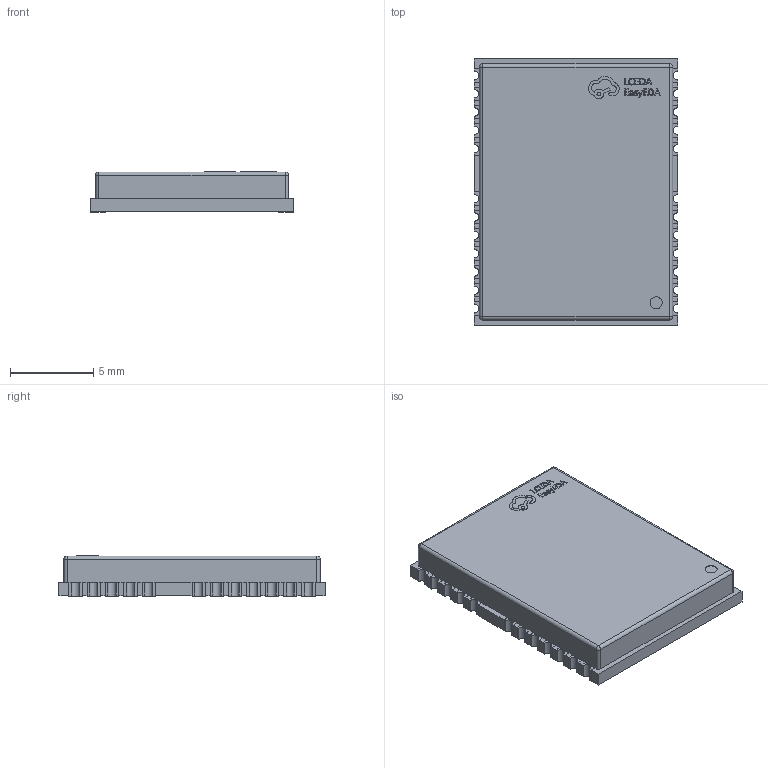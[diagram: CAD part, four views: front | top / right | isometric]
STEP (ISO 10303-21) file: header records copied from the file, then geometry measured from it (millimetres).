
FILE_DESCRIPTION (( 'STEP AP214' ), '1' );
FILE_NAME ('GPSM-SMD_24P-L16.0-W12.2-P1.10-BL.step', '2022-06-24T03:46:23', ( '' ), ( '' ), 'SwSTEP 2.0', 'SolidWorks 2020', '' );
FILE_SCHEMA (( 'AUTOMOTIVE_DESIGN' ));
Length unit declared in the file: millimetre
Products named in the file (1): GPSM-SMD_24P-L16.0-W12.2-P1.10-BL
Bounding box: 12.2 x 16 x 2.42 mm (x, y, z)
Volume: 439.8 mm3; surface area: 519.3 mm2
Topology: 1 solids, 1 shells, 608 faces, 1729 edges, 1146 vertices
Faces by surface type: plane 446, bspline 112, cylinder 46, sphere 4
Entity records: 26792 total; most frequent: CARTESIAN_POINT 5584, ORIENTED_EDGE 3450, DIRECTION 2583, EDGE_CURVE 1725, LINE 1405, VECTOR 1405, VERTEX_POINT 1146, EDGE_LOOP 635
